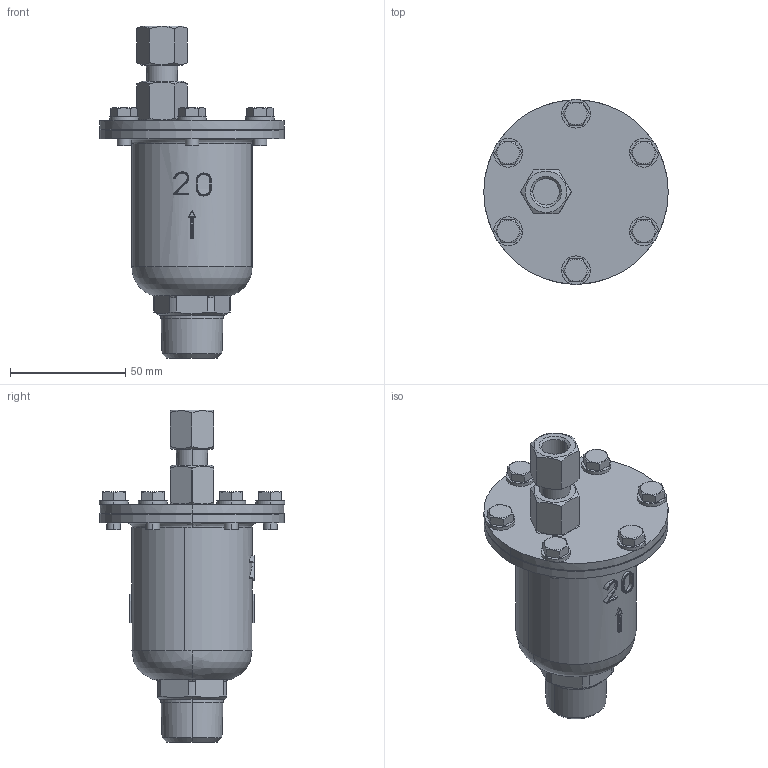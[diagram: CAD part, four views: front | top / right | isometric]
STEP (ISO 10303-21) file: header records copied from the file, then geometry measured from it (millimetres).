
FILE_DESCRIPTION( (''), '2;1');
FILE_NAME ('PC1056.968.TA-16CVS(20A)_4181.stp','2024-08-29T11:17:36',(''),(''),'spGate 19.8.4 (****-****-****-****)','','');
FILE_SCHEMA (('AUTOMOTIVE_DESIGN'));
Length unit declared in the file: millimetre
Bounding box: 80 x 80.5 x 144 mm (x, y, z)
Volume: 89488.1 mm3; surface area: 45598.3 mm2
Topology: 1 solids, 1 shells, 311 faces, 785 edges, 503 vertices
Faces by surface type: plane 132, bspline 103, cylinder 76
Entity records: 17663 total; most frequent: CARTESIAN_POINT 4912, ORIENTED_EDGE 1570, DIRECTION 1132, COLOUR_RGB 1097, PRESENTATION_STYLE_ASSIGNMENT 1097, STYLED_ITEM 1097, EDGE_CURVE 785, DRAUGHTING_PRE_DEFINED_CURVE_FONT 785
